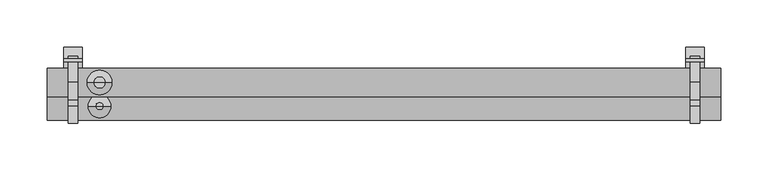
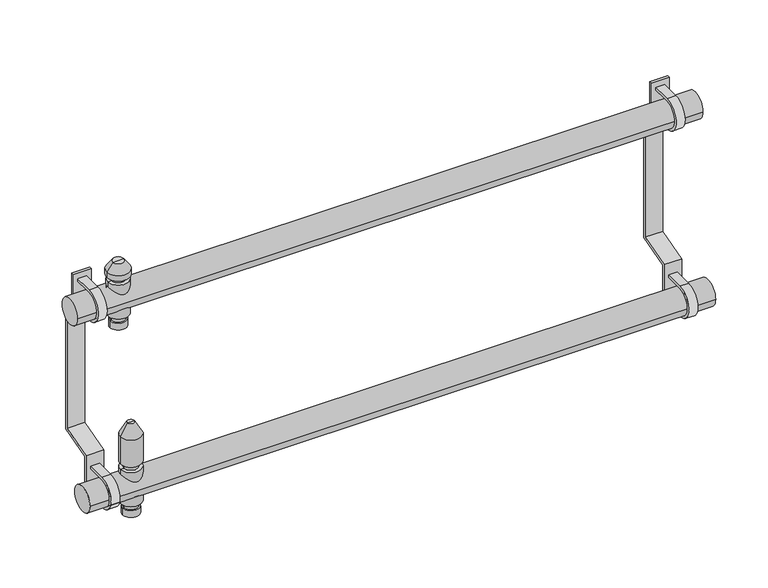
"""IFC4 building model written with IfcOpenShell, lengths in millimetres: valve geometry, PL CZ_Manifold_FT-VA : 13 circuits."""

from ifc_helpers import new_model, si_unit, point, frame, frame_2d, origin, origin_2d, place, context, project, spatial, polyline, circle_curve, trimmed, segment, composite_curve, outline, extrude, source, transform, mapped, element, save
from ifc_brep_helpers import plane_surface, cylinder_surface, revolved_surface, advanced_brep


def valve_d5daf2db(model_context):
    return source(origin(), model_context, "Body", "SolidModel", [
        advanced_brep(
        [(28.5, 25.0, 174.88733), (47.5, 25.0, 174.88733), (38.0, 25.0, 174.88733), (28.5, 25.0, 182.9630354), (47.5, 25.0, 182.9630354), (30.0, 25.0, 182.9630354), (46.0, 25.0, 182.9630354), (30.0, 25.0, 189.669747), (46.0, 25.0, 189.669747), (26.0, 25.0, 189.669747), (50.0, 25.0, 189.669747), (26.0, 25.0, 230.330253), (50.0, 25.0, 230.330253), (30.0, 25.0, 230.330253), (46.0, 25.0, 230.330253), (30.0, 25.0, 236.0474786), (46.0, 25.0, 236.0474786), (25.0, 25.0, 236.0474786), (51.0, 25.0, 236.0474786), (25.0, 25.0, 242.337955), (51.0, 25.0, 242.337955), (31.6551779, 25.0, 251.842534), (44.3448221, 25.0, 251.842534), (38.0, 25.0, 251.842534)],
        [
            (0, 1, circle_curve(frame((38.0, 25.0, 174.88733), z_axis=(0.0, 0.0, -1.0), x_axis=(1.0, 0.0, 0.0)), 9.5)),
            (1, 2),
            (2, 0),
            (1, 0, circle_curve(frame((38.0, 25.0, 174.88733), z_axis=(0.0, 0.0, -1.0), x_axis=(1.0, 0.0, 0.0)), 9.5)),
            (3, 4, circle_curve(frame((38.0, 25.0, 182.9630354), z_axis=(0.0, 0.0, -1.0), x_axis=(1.0, 0.0, 0.0)), 9.5)),
            (4, 1),
            (0, 3),
            (4, 3, circle_curve(frame((38.0, 25.0, 182.9630354), z_axis=(0.0, 0.0, -1.0), x_axis=(1.0, 0.0, 0.0)), 9.5)),
            (5, 6, circle_curve(frame((38.0, 25.0, 182.9630354), z_axis=(0.0, 0.0, -1.0), x_axis=(1.0, 0.0, 0.0)), 8.0)),
            (6, 4),
            (3, 5),
            (6, 5, circle_curve(frame((38.0, 25.0, 182.9630354), z_axis=(0.0, 0.0, -1.0), x_axis=(1.0, 0.0, 0.0)), 8.0)),
            (7, 8, circle_curve(frame((38.0, 25.0, 189.669747), z_axis=(0.0, 0.0, -1.0), x_axis=(1.0, 0.0, 0.0)), 8.0)),
            (8, 6),
            (5, 7),
            (8, 7, circle_curve(frame((38.0, 25.0, 189.669747), z_axis=(0.0, 0.0, -1.0), x_axis=(1.0, 0.0, 0.0)), 8.0)),
            (9, 10, circle_curve(frame((38.0, 25.0, 189.669747), z_axis=(0.0, 0.0, -1.0), x_axis=(1.0, 0.0, 0.0)), 12.0)),
            (10, 8),
            (7, 9),
            (10, 9, circle_curve(frame((38.0, 25.0, 189.669747), z_axis=(0.0, 0.0, -1.0), x_axis=(1.0, 0.0, 0.0)), 12.0)),
            (11, 12, circle_curve(frame((38.0, 25.0, 230.330253), z_axis=(0.0, 0.0, -1.0), x_axis=(1.0, 0.0, 0.0)), 12.0)),
            (12, 10),
            (9, 11),
            (12, 11, circle_curve(frame((38.0, 25.0, 230.330253), z_axis=(0.0, 0.0, -1.0), x_axis=(1.0, 0.0, 0.0)), 12.0)),
            (13, 14, circle_curve(frame((38.0, 25.0, 230.330253), z_axis=(0.0, 0.0, -1.0), x_axis=(1.0, 0.0, 0.0)), 8.0)),
            (14, 12),
            (11, 13),
            (14, 13, circle_curve(frame((38.0, 25.0, 230.330253), z_axis=(0.0, 0.0, -1.0), x_axis=(1.0, 0.0, 0.0)), 8.0)),
            (15, 16, circle_curve(frame((38.0, 25.0, 236.0474786), z_axis=(0.0, 0.0, -1.0), x_axis=(1.0, 0.0, 0.0)), 8.0)),
            (16, 14),
            (13, 15),
            (16, 15, circle_curve(frame((38.0, 25.0, 236.0474786), z_axis=(0.0, 0.0, -1.0), x_axis=(1.0, 0.0, 0.0)), 8.0)),
            (17, 18, circle_curve(frame((38.0, 25.0, 236.0474786), z_axis=(0.0, 0.0, -1.0), x_axis=(1.0, 0.0, 0.0)), 13.0)),
            (18, 16),
            (15, 17),
            (18, 17, circle_curve(frame((38.0, 25.0, 236.0474786), z_axis=(0.0, 0.0, -1.0), x_axis=(1.0, 0.0, 0.0)), 13.0)),
            (19, 20, circle_curve(frame((38.0, 25.0, 242.337955), z_axis=(0.0, 0.0, -1.0), x_axis=(1.0, 0.0, 0.0)), 13.0)),
            (20, 18),
            (17, 19),
            (20, 19, circle_curve(frame((38.0, 25.0, 242.337955), z_axis=(0.0, 0.0, -1.0), x_axis=(1.0, 0.0, 0.0)), 13.0)),
            (21, 22, circle_curve(frame((38.0, 25.0, 251.842534), z_axis=(0.0, 0.0, -1.0), x_axis=(1.0, 0.0, 0.0)), 6.3448221)),
            (22, 20),
            (19, 21),
            (22, 21, circle_curve(frame((38.0, 25.0, 251.842534), z_axis=(0.0, 0.0, -1.0), x_axis=(1.0, 0.0, 0.0)), 6.3448221)),
            (23, 22),
            (21, 23),
        ],
        [
            plane_surface(frame((38.0, 25.0, 174.88733), z_axis=(0.0, 0.0, -1.0), x_axis=(1.0, 0.0, 0.0))),
            cylinder_surface(frame((38.0, 25.0, 247.7026565), z_axis=(0.0, 0.0, 1.0), x_axis=(1.0, 0.0, 0.0)), 9.5),
            plane_surface(frame((38.0, 25.0, 182.9630354), z_axis=(0.0, 0.0, 1.0), x_axis=(1.0, 0.0, 0.0))),
            cylinder_surface(frame((38.0, 25.0, 247.7026565), z_axis=(0.0, 0.0, 1.0), x_axis=(1.0, 0.0, 0.0)), 8.0),
            plane_surface(frame((38.0, 25.0, 189.669747), z_axis=(0.0, 0.0, -1.0), x_axis=(1.0, 0.0, 0.0))),
            cylinder_surface(frame((38.0, 25.0, 247.7026565), z_axis=(0.0, 0.0, 1.0), x_axis=(1.0, 0.0, 0.0)), 12.0),
            plane_surface(frame((38.0, 25.0, 230.330253), z_axis=(0.0, 0.0, 1.0), x_axis=(1.0, 0.0, 0.0))),
            plane_surface(frame((38.0, 25.0, 236.0474786), z_axis=(0.0, 0.0, -1.0), x_axis=(1.0, 0.0, 0.0))),
            cylinder_surface(frame((38.0, 25.0, 247.7026565), z_axis=(0.0, 0.0, 1.0), x_axis=(1.0, 0.0, 0.0)), 13.0),
            revolved_surface(polyline([(51.0, 25.0, 242.337955), (44.3448221, 25.0, 251.842534)]), (38.0, 25.0, 247.7026565), (0.0, 0.0, 1.0)),
            plane_surface(frame((38.0, 25.0, 251.842534), z_axis=(0.0, 0.0, 1.0), x_axis=(1.0, 0.0, 0.0))),
        ],
        [
            (0, [[1, 2, 3]]),
            (0, [[4, -3, -2]]),
            (1, [[5, 6, -1, 7]]),
            (1, [[8, -7, -4, -6]]),
            (2, [[9, 10, -5, 11]]),
            (2, [[12, -11, -8, -10]]),
            (3, [[13, 14, -9, 15]]),
            (3, [[16, -15, -12, -14]]),
            (4, [[17, 18, -13, 19]]),
            (4, [[20, -19, -16, -18]]),
            (5, [[21, 22, -17, 23]]),
            (5, [[24, -23, -20, -22]]),
            (6, [[25, 26, -21, 27]]),
            (6, [[28, -27, -24, -26]]),
            (3, [[29, 30, -25, 31]]),
            (3, [[32, -31, -28, -30]]),
            (7, [[33, 34, -29, 35]]),
            (7, [[36, -35, -32, -34]]),
            (8, [[37, 38, -33, 39]]),
            (8, [[40, -39, -36, -38]]),
            (9, [[41, 42, -37, 43]]),
            (9, [[44, -43, -40, -42]]),
            (10, [[45, -41, 46]]),
            (10, [[-46, -44, -45]]),
        ],
    ),
        advanced_brep(
        [(28.5, 0.0, -35.11267), (47.5, 0.0, -35.11267), (38.0, 0.0, -35.11267), (28.5, 0.0, -27.0369646), (47.5, 0.0, -27.0369646), (30.0, 0.0, -27.0369646), (46.0, 0.0, -27.0369646), (30.0, 0.0, -20.330253), (46.0, 0.0, -20.330253), (26.0, 0.0, -20.330253), (50.0, 0.0, -20.330253), (26.0, 0.0, 20.330253), (50.0, 0.0, 20.330253), (30.0, 0.0, 20.330253), (46.0, 0.0, 20.330253), (30.0, 0.0, 27.0474786), (46.0, 0.0, 27.0474786), (26.0, 0.0, 27.0474786), (50.0, 0.0, 27.0474786), (26.0, 0.0, 59.4084325), (50.0, 0.0, 59.4084325), (34.0, 0.0, 73.264839), (42.0, 0.0, 73.264839), (38.0, 0.0, 73.264839)],
        [
            (0, 1, circle_curve(frame((38.0, 0.0, -35.11267), z_axis=(0.0, 0.0, -1.0), x_axis=(1.0, 0.0, 0.0)), 9.5)),
            (1, 2),
            (2, 0),
            (1, 0, circle_curve(frame((38.0, 0.0, -35.11267), z_axis=(0.0, 0.0, -1.0), x_axis=(1.0, 0.0, 0.0)), 9.5)),
            (3, 4, circle_curve(frame((38.0, 0.0, -27.0369646), z_axis=(0.0, 0.0, -1.0), x_axis=(1.0, 0.0, 0.0)), 9.5)),
            (4, 1),
            (0, 3),
            (4, 3, circle_curve(frame((38.0, 0.0, -27.0369646), z_axis=(0.0, 0.0, -1.0), x_axis=(1.0, 0.0, 0.0)), 9.5)),
            (5, 6, circle_curve(frame((38.0, 0.0, -27.0369646), z_axis=(0.0, 0.0, -1.0), x_axis=(1.0, 0.0, 0.0)), 8.0)),
            (6, 4),
            (3, 5),
            (6, 5, circle_curve(frame((38.0, 0.0, -27.0369646), z_axis=(0.0, 0.0, -1.0), x_axis=(1.0, 0.0, 0.0)), 8.0)),
            (7, 8, circle_curve(frame((38.0, 0.0, -20.330253), z_axis=(0.0, 0.0, -1.0), x_axis=(1.0, 0.0, 0.0)), 8.0)),
            (8, 6),
            (5, 7),
            (8, 7, circle_curve(frame((38.0, 0.0, -20.330253), z_axis=(0.0, 0.0, -1.0), x_axis=(1.0, 0.0, 0.0)), 8.0)),
            (9, 10, circle_curve(frame((38.0, 0.0, -20.330253), z_axis=(0.0, 0.0, -1.0), x_axis=(1.0, 0.0, 0.0)), 12.0)),
            (10, 8),
            (7, 9),
            (10, 9, circle_curve(frame((38.0, 0.0, -20.330253), z_axis=(0.0, 0.0, -1.0), x_axis=(1.0, 0.0, 0.0)), 12.0)),
            (11, 12, circle_curve(frame((38.0, 0.0, 20.330253), z_axis=(0.0, 0.0, -1.0), x_axis=(1.0, 0.0, 0.0)), 12.0)),
            (12, 10),
            (9, 11),
            (12, 11, circle_curve(frame((38.0, 0.0, 20.330253), z_axis=(0.0, 0.0, -1.0), x_axis=(1.0, 0.0, 0.0)), 12.0)),
            (13, 14, circle_curve(frame((38.0, 0.0, 20.330253), z_axis=(0.0, 0.0, -1.0), x_axis=(1.0, 0.0, 0.0)), 8.0)),
            (14, 12),
            (11, 13),
            (14, 13, circle_curve(frame((38.0, 0.0, 20.330253), z_axis=(0.0, 0.0, -1.0), x_axis=(1.0, 0.0, 0.0)), 8.0)),
            (15, 16, circle_curve(frame((38.0, 0.0, 27.0474786), z_axis=(0.0, 0.0, -1.0), x_axis=(1.0, 0.0, 0.0)), 8.0)),
            (16, 14),
            (13, 15),
            (16, 15, circle_curve(frame((38.0, 0.0, 27.0474786), z_axis=(0.0, 0.0, -1.0), x_axis=(1.0, 0.0, 0.0)), 8.0)),
            (17, 18, circle_curve(frame((38.0, 0.0, 27.0474786), z_axis=(0.0, 0.0, -1.0), x_axis=(1.0, 0.0, 0.0)), 12.0)),
            (18, 16),
            (15, 17),
            (18, 17, circle_curve(frame((38.0, 0.0, 27.0474786), z_axis=(0.0, 0.0, -1.0), x_axis=(1.0, 0.0, 0.0)), 12.0)),
            (19, 20, circle_curve(frame((38.0, 0.0, 59.4084325), z_axis=(0.0, 0.0, -1.0), x_axis=(1.0, 0.0, 0.0)), 12.0)),
            (20, 18),
            (17, 19),
            (20, 19, circle_curve(frame((38.0, 0.0, 59.4084325), z_axis=(0.0, 0.0, -1.0), x_axis=(1.0, 0.0, 0.0)), 12.0)),
            (21, 22, circle_curve(frame((38.0, 0.0, 73.264839), z_axis=(0.0, 0.0, -1.0), x_axis=(1.0, 0.0, 0.0)), 4.0)),
            (22, 20),
            (19, 21),
            (22, 21, circle_curve(frame((38.0, 0.0, 73.264839), z_axis=(0.0, 0.0, -1.0), x_axis=(1.0, 0.0, 0.0)), 4.0)),
            (23, 22),
            (21, 23),
        ],
        [
            plane_surface(frame((38.0, 0.0, -35.11267), z_axis=(0.0, 0.0, -1.0), x_axis=(1.0, 0.0, 0.0))),
            cylinder_surface(frame((38.0, 0.0, 58.264839), z_axis=(0.0, 0.0, 1.0), x_axis=(1.0, 0.0, 0.0)), 9.5),
            plane_surface(frame((38.0, 0.0, -27.0369646), z_axis=(0.0, 0.0, 1.0), x_axis=(1.0, 0.0, 0.0))),
            cylinder_surface(frame((38.0, 0.0, 58.264839), z_axis=(0.0, 0.0, 1.0), x_axis=(1.0, 0.0, 0.0)), 8.0),
            plane_surface(frame((38.0, 0.0, -20.330253), z_axis=(0.0, 0.0, -1.0), x_axis=(1.0, 0.0, 0.0))),
            cylinder_surface(frame((38.0, 0.0, 58.264839), z_axis=(0.0, 0.0, 1.0), x_axis=(1.0, 0.0, 0.0)), 12.0),
            plane_surface(frame((38.0, 0.0, 20.330253), z_axis=(0.0, 0.0, 1.0), x_axis=(1.0, 0.0, 0.0))),
            plane_surface(frame((38.0, 0.0, 27.0474786), z_axis=(0.0, 0.0, -1.0), x_axis=(1.0, 0.0, 0.0))),
            revolved_surface(polyline([(50.0, 0.0, 59.4084325), (42.0, 0.0, 73.264839)]), (38.0, 0.0, 58.264839), (0.0, 0.0, 1.0)),
            plane_surface(frame((38.0, 0.0, 73.264839), z_axis=(0.0, 0.0, 1.0), x_axis=(1.0, 0.0, 0.0))),
        ],
        [
            (0, [[1, 2, 3]]),
            (0, [[4, -3, -2]]),
            (1, [[5, 6, -1, 7]]),
            (1, [[8, -7, -4, -6]]),
            (2, [[9, 10, -5, 11]]),
            (2, [[12, -11, -8, -10]]),
            (3, [[13, 14, -9, 15]]),
            (3, [[16, -15, -12, -14]]),
            (4, [[17, 18, -13, 19]]),
            (4, [[20, -19, -16, -18]]),
            (5, [[21, 22, -17, 23]]),
            (5, [[24, -23, -20, -22]]),
            (6, [[25, 26, -21, 27]]),
            (6, [[28, -27, -24, -26]]),
            (3, [[29, 30, -25, 31]]),
            (3, [[32, -31, -28, -30]]),
            (7, [[33, 34, -29, 35]]),
            (7, [[36, -35, -32, -34]]),
            (5, [[37, 38, -33, 39]]),
            (5, [[40, -39, -36, -38]]),
            (8, [[41, 42, -37, 43]]),
            (8, [[44, -43, -40, -42]]),
            (9, [[45, -41, 46]]),
            (9, [[-46, -44, -45]]),
        ],
    ),
        extrude(outline(composite_curve([segment(trimmed(circle_curve(origin_2d(), 15.0), [point((0.0, 15.0))], [point((0.0, -15.0))], True, "CARTESIAN"), True, "CONTINUOUS"), segment(polyline([(0.0, -15.0), (27.6751284, -15.0), (27.6751284, -18.0), (0.0, -18.0)]), True, "CONTINUOUS"), segment(trimmed(circle_curve(origin_2d(), 18.0), [point((0.0, -18.0))], [point((0.0, 18.0))], False, "CARTESIAN"), True, "CONTINUOUS"), segment(polyline([(0.0, 18.0), (27.6751284, 18.0), (27.6751284, 15.0), (0.0, 15.0)]), True, "CONTINUOUS")], self_intersect=False)), frame((661.0, 0.0, 0.0), z_axis=(1.0, 0.0, 0.0), x_axis=(0.0, 1.0, 0.0)), (0.0, 0.0, 1.0), 10.0),
        extrude(outline(composite_curve([segment(trimmed(circle_curve(frame_2d((25.0, 210.0)), 15.0), [point((25.0, 225.0))], [point((25.0, 195.0))], True, "CARTESIAN"), True, "CONTINUOUS"), segment(polyline([(25.0, 195.0), (52.6751284, 195.0), (52.6751284, 192.0), (25.0, 192.0)]), True, "CONTINUOUS"), segment(trimmed(circle_curve(frame_2d((25.0, 210.0)), 18.0), [point((25.0, 192.0))], [point((25.0, 228.0))], False, "CARTESIAN"), True, "CONTINUOUS"), segment(polyline([(25.0, 228.0), (52.6751284, 228.0), (52.6751284, 225.0), (25.0, 225.0)]), True, "CONTINUOUS")], self_intersect=False)), frame((661.0, 0.0, 0.0), z_axis=(1.0, 0.0, 0.0), x_axis=(0.0, 1.0, 0.0)), (0.0, 0.0, 1.0), 10.0),
        extrude(outline(polyline([(62.0, 182.8840762), (62.0, 40.6095793), (25.0, 30.0), (25.0, -30.0), (22.0, -30.0), (22.0, 32.2606622), (59.0, 42.8702414), (59.0, 180.3667773), (47.0, 182.4827011), (47.0, 235.0), (50.0, 235.0), (50.0, 185.0), (62.0, 182.8840762)])), frame((656.0, 0.0, 0.0), z_axis=(1.0, 0.0, 0.0), x_axis=(0.0, 1.0, 0.0)), (0.0, 0.0, 1.0), 20.0),
        extrude(outline(composite_curve([segment(trimmed(circle_curve(origin_2d(), 15.0), [point((0.0, 15.0))], [point((0.0, -15.0))], True, "CARTESIAN"), True, "CONTINUOUS"), segment(polyline([(0.0, -15.0), (27.6751284, -15.0), (27.6751284, -18.0), (0.0, -18.0)]), True, "CONTINUOUS"), segment(trimmed(circle_curve(origin_2d(), 18.0), [point((0.0, -18.0))], [point((0.0, 18.0))], False, "CARTESIAN"), True, "CONTINUOUS"), segment(polyline([(0.0, 18.0), (27.6751284, 18.0), (27.6751284, 15.0), (0.0, 15.0)]), True, "CONTINUOUS")], self_intersect=False)), frame((5.0, 0.0, 0.0), z_axis=(1.0, 0.0, 0.0), x_axis=(0.0, 1.0, 0.0)), (0.0, 0.0, 1.0), 10.0),
        extrude(outline(composite_curve([segment(trimmed(circle_curve(frame_2d((25.0, 210.0)), 15.0), [point((25.0, 225.0))], [point((25.0, 195.0))], True, "CARTESIAN"), True, "CONTINUOUS"), segment(polyline([(25.0, 195.0), (52.6751284, 195.0), (52.6751284, 192.0), (25.0, 192.0)]), True, "CONTINUOUS"), segment(trimmed(circle_curve(frame_2d((25.0, 210.0)), 18.0), [point((25.0, 192.0))], [point((25.0, 228.0))], False, "CARTESIAN"), True, "CONTINUOUS"), segment(polyline([(25.0, 228.0), (52.6751284, 228.0), (52.6751284, 225.0), (25.0, 225.0)]), True, "CONTINUOUS")], self_intersect=False)), frame((5.0, 0.0, 0.0), z_axis=(1.0, 0.0, 0.0), x_axis=(0.0, 1.0, 0.0)), (0.0, 0.0, 1.0), 10.0),
        extrude(outline(polyline([(62.0, 182.8840762), (62.0, 40.6095793), (25.0, 30.0), (25.0, -30.0), (22.0, -30.0), (22.0, 32.2606622), (59.0, 42.8702414), (59.0, 180.3667773), (47.0, 182.4827011), (47.0, 235.0), (50.0, 235.0), (50.0, 185.0), (62.0, 182.8840762)])), frame((0.0, 0.0, 0.0), z_axis=(1.0, 0.0, 0.0), x_axis=(0.0, 1.0, 0.0)), (0.0, 0.0, 1.0), 20.0),
        extrude(outline(composite_curve([segment(trimmed(circle_curve(origin_2d(), 15.0), [point((15.0, 0.0))], [point((-15.0, 0.0))], False, "CARTESIAN"), True, "CONTINUOUS"), segment(trimmed(circle_curve(origin_2d(), 15.0), [point((-15.0, 0.0))], [point((15.0, 0.0))], False, "CARTESIAN"), True, "CONTINUOUS")], self_intersect=False)), frame((-17.0, 0.0, 0.0), z_axis=(1.0, 0.0, 0.0), x_axis=(0.0, 1.0, 0.0)), (0.0, 0.0, 1.0), 710.0),
        extrude(outline(composite_curve([segment(trimmed(circle_curve(frame_2d((25.0, 210.0)), 15.0), [point((40.0, 210.0))], [point((10.0, 210.0))], False, "CARTESIAN"), True, "CONTINUOUS"), segment(trimmed(circle_curve(frame_2d((25.0, 210.0)), 15.0), [point((10.0, 210.0))], [point((40.0, 210.0))], False, "CARTESIAN"), True, "CONTINUOUS")], self_intersect=False)), frame((-17.0, 0.0, 0.0), z_axis=(1.0, 0.0, 0.0), x_axis=(0.0, 1.0, 0.0)), (0.0, 0.0, 1.0), 710.0),
    ])


if __name__ == "__main__":
    model = new_model("IFC4")
    model_context = context("Model", 3, world=origin())
    ifc_project = project(units=[si_unit("LENGTHUNIT", "METRE", prefix="MILLI")], contexts=[model_context])
    site = spatial("IfcSite", under=ifc_project)
    building = spatial("IfcBuilding", under=site)
    placement = place(None, origin())
    valve_shape = valve_d5daf2db(model_context)
    element("IfcValve", 1, ObjectType="PL CZ_Manifold_FT-VA : 13 circuits", at=placement, inside=building, context=model_context, shape_type="MappedRepresentation", body=[
        mapped(valve_shape, transform((0.0, 0.0, 0.0), x_axis=(1.0, 0.0, 0.0), y_axis=(0.0, 1.0, 0.0), z_axis=(0.0, 0.0, 1.0))),
    ])
    save(model, "model.ifc")
